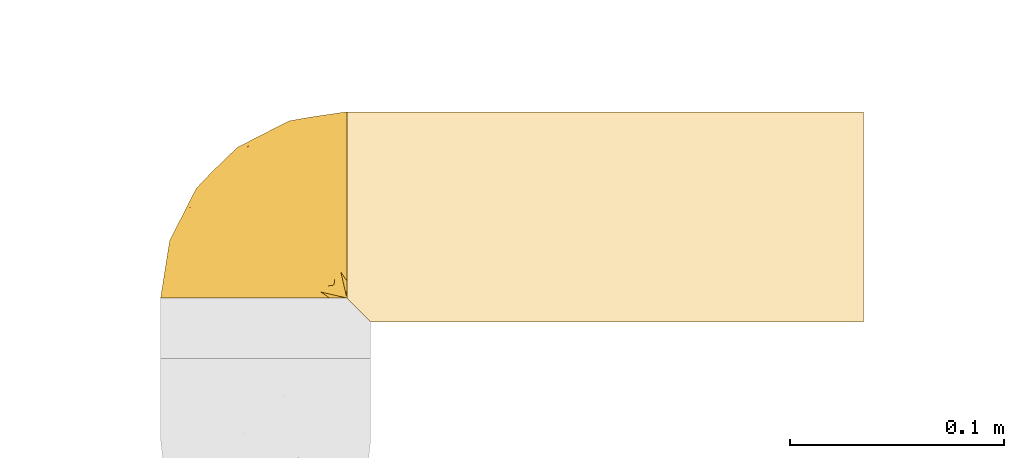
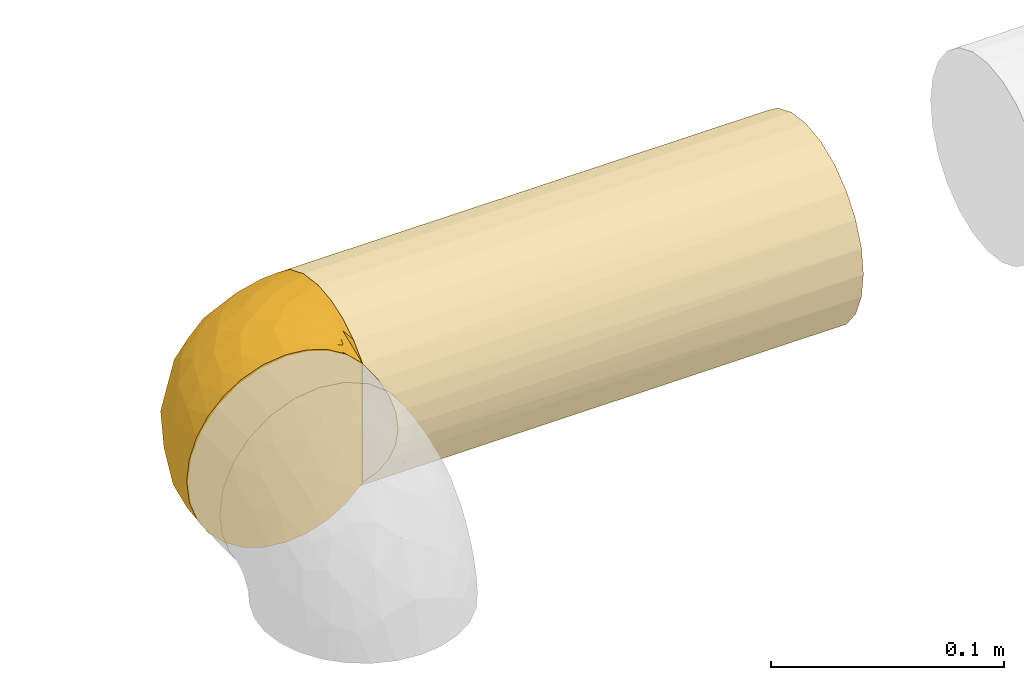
# One storey, part 3 of 6: 2 coverings.
"""IFC2X3 building model written with IfcOpenShell, lengths in millimetres."""

from ifc_helpers import new_model, entity, si_unit, converted_unit, derived_unit, direction, frame, origin, place, context, subcontext, project, spatial, faceted_brep, material, element, save


model = new_model("IFC2X3")

# Units and contexts
model_context = context("Model", 3, precision=0.01, world=origin(), true_north=direction((6.123031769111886e-17, 1.0)))
body_context = subcontext(model_context, "Body", "Model", "MODEL_VIEW")
ifc_project = project(units=[si_unit("LENGTHUNIT", "METRE", prefix="MILLI"), si_unit("AREAUNIT", "SQUARE_METRE"), si_unit("VOLUMEUNIT", "CUBIC_METRE"), converted_unit("PLANEANGLEUNIT", "DEGREE", entity("IfcRatioMeasure", 0.017453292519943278), si_unit("PLANEANGLEUNIT", "RADIAN"), dimensions=[0, 0, 0, 0, 0, 0, 0]), si_unit("MASSUNIT", "GRAM", prefix="KILO"), derived_unit("MASSDENSITYUNIT", [(si_unit("MASSUNIT", "GRAM", prefix="KILO"), 1), (si_unit("LENGTHUNIT", "METRE"), -3)]), derived_unit("IONCONCENTRATIONUNIT", [(si_unit("MASSUNIT", "GRAM", prefix="KILO"), 1), (si_unit("LENGTHUNIT", "METRE"), -3)]), derived_unit("MOMENTOFINERTIAUNIT", [(si_unit("LENGTHUNIT", "METRE"), 4)]), si_unit("TIMEUNIT", "SECOND"), si_unit("FREQUENCYUNIT", "HERTZ"), si_unit("THERMODYNAMICTEMPERATUREUNIT", "DEGREE_CELSIUS"), derived_unit("THERMALTRANSMITTANCEUNIT", [(si_unit("MASSUNIT", "GRAM", prefix="KILO"), 1), (si_unit("THERMODYNAMICTEMPERATUREUNIT", "KELVIN"), -1), (si_unit("TIMEUNIT", "SECOND"), -3)]), derived_unit("THERMALCONDUCTANCEUNIT", [(si_unit("MASSUNIT", "GRAM", prefix="KILO"), 1), (si_unit("THERMODYNAMICTEMPERATUREUNIT", "KELVIN"), -1), (si_unit("TIMEUNIT", "SECOND"), -3), (si_unit("LENGTHUNIT", "METRE"), 1)]), derived_unit("VOLUMETRICFLOWRATEUNIT", [(si_unit("LENGTHUNIT", "METRE"), 3), (si_unit("TIMEUNIT", "SECOND"), -1)]), derived_unit("MASSFLOWRATEUNIT", [(si_unit("MASSUNIT", "GRAM", prefix="KILO"), 1), (si_unit("TIMEUNIT", "SECOND"), -1)]), derived_unit("ROTATIONALFREQUENCYUNIT", [(si_unit("TIMEUNIT", "SECOND"), -1)]), si_unit("ELECTRICCURRENTUNIT", "AMPERE"), si_unit("ELECTRICVOLTAGEUNIT", "VOLT"), si_unit("POWERUNIT", "WATT"), si_unit("FORCEUNIT", "NEWTON", prefix="KILO"), si_unit("ILLUMINANCEUNIT", "LUX"), si_unit("LUMINOUSFLUXUNIT", "LUMEN"), si_unit("LUMINOUSINTENSITYUNIT", "CANDELA"), derived_unit("USERDEFINED", [(si_unit("MASSUNIT", "GRAM", prefix="KILO"), -1), (si_unit("LENGTHUNIT", "METRE"), -2), (si_unit("TIMEUNIT", "SECOND"), 3), (si_unit("LUMINOUSFLUXUNIT", "LUMEN"), 1)]), derived_unit("USERDEFINED", [(si_unit("MASSUNIT", "GRAM", prefix="KILO"), 1), (si_unit("TIMEUNIT", "SECOND"), -3), (si_unit("LENGTHUNIT", "METRE"), 3), (si_unit("ELECTRICCURRENTUNIT", "AMPERE"), -2)]), derived_unit("SOUNDPOWERUNIT", [(si_unit("MASSUNIT", "GRAM", prefix="KILO"), 1), (si_unit("TIMEUNIT", "SECOND"), -3), (si_unit("LENGTHUNIT", "METRE"), 2)]), derived_unit("SOUNDPRESSUREUNIT", [(si_unit("MASSUNIT", "GRAM", prefix="KILO"), 1), (si_unit("LENGTHUNIT", "METRE"), -1), (si_unit("TIMEUNIT", "SECOND"), -2)]), derived_unit("LINEARVELOCITYUNIT", [(si_unit("LENGTHUNIT", "METRE"), 1), (si_unit("TIMEUNIT", "SECOND"), -1)]), si_unit("PRESSUREUNIT", "PASCAL"), derived_unit("USERDEFINED", [(si_unit("MASSUNIT", "GRAM", prefix="KILO"), 1), (si_unit("LENGTHUNIT", "METRE"), -2), (si_unit("TIMEUNIT", "SECOND"), -2)]), derived_unit("LINEARFORCEUNIT", [(si_unit("MASSUNIT", "GRAM", prefix="KILO"), 1), (si_unit("TIMEUNIT", "SECOND"), -2)]), derived_unit("PLANARFORCEUNIT", [(si_unit("MASSUNIT", "GRAM", prefix="KILO"), 1), (si_unit("LENGTHUNIT", "METRE"), -1), (si_unit("TIMEUNIT", "SECOND"), -2)]), derived_unit("SPECIFICHEATCAPACITYUNIT", [(si_unit("THERMODYNAMICTEMPERATUREUNIT", "KELVIN"), -1), (si_unit("LENGTHUNIT", "METRE"), 2), (si_unit("TIMEUNIT", "SECOND"), -2)]), derived_unit("HEATINGVALUEUNIT", [(si_unit("LENGTHUNIT", "METRE"), 2), (si_unit("TIMEUNIT", "SECOND"), -2)]), derived_unit("VAPORPERMEABILITYUNIT", [(si_unit("LENGTHUNIT", "METRE"), -1), (si_unit("TIMEUNIT", "SECOND"), 1)]), derived_unit("DYNAMICVISCOSITYUNIT", [(si_unit("MASSUNIT", "GRAM", prefix="KILO"), 1), (si_unit("TIMEUNIT", "SECOND"), -1), (si_unit("LENGTHUNIT", "METRE"), -1)]), derived_unit("THERMALEXPANSIONCOEFFICIENTUNIT", [(si_unit("THERMODYNAMICTEMPERATUREUNIT", "KELVIN"), -1)]), derived_unit("MODULUSOFELASTICITYUNIT", [(si_unit("MASSUNIT", "GRAM", prefix="KILO"), 1), (si_unit("LENGTHUNIT", "METRE"), -1), (si_unit("TIMEUNIT", "SECOND"), -2)]), derived_unit("ISOTHERMALMOISTURECAPACITYUNIT", [(si_unit("LENGTHUNIT", "METRE"), 3), (si_unit("MASSUNIT", "GRAM", prefix="KILO"), -1)]), derived_unit("MOISTUREDIFFUSIVITYUNIT", [(si_unit("TIMEUNIT", "SECOND"), -1), (si_unit("LENGTHUNIT", "METRE"), 2)])], contexts=[model_context])

# Site, building, storey
site_placement = place(None, origin())
site = spatial("IfcSite", under=ifc_project, at=site_placement, Name="Default", CompositionType="ELEMENT")
building_placement = place(site_placement, origin())
building = spatial("IfcBuilding", under=site, at=building_placement, CompositionType="ELEMENT")
storey_placement = place(building_placement, frame((0.0, 0.0, 3000.0)))
storey = spatial("IfcBuildingStorey", under=building, at=storey_placement, Name="Niveau 1", CompositionType="ELEMENT", Elevation=3000.0)

# Coverings
ifc_material = material(Name="Isolation - Laine minérale")
covering_1_placement = place(storey_placement, frame((-10422.891137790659, 9987.250352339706, 0.7452722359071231)))
element("IfcCovering", 1, at=covering_1_placement, inside=storey, material=ifc_material, Name="Isolation des canalisations:Laine minérale", ObjectType="Isolation des canalisations:Laine minérale", PredefinedType="INSULATION", context=body_context, shape_type="Brep", body=[
    faceted_brep([(29.412134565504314, 1.5952722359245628, -6.466386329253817), (20.093252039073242, 1.5952722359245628, -12.324234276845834), (12.312548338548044, 1.5952722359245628, -20.107905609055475), (6.459227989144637, 1.5952722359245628, -29.426998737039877), (2.826140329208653, 1.5952722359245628, -39.814613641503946), (1.5952722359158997, 1.5952722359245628, -50.7452722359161), (2.8288129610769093, 1.5952722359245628, -61.68764083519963), (6.466386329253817, 1.5952722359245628, -72.07840990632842), (12.324234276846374, 1.5952722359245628, -81.39729243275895), (20.107905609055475, 1.5952722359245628, -89.17799613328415), (29.42699873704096, 1.5952722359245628, -95.03131648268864), (39.81461364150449, 1.5952722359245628, -98.664404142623), (50.74527223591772, 1.5952722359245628, -99.8952722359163), (61.40435822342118, 1.5952722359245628, -98.72554303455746), (71.55257335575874, 1.5952722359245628, -95.27367575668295), (80.70896636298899, 1.5952722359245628, -89.70550239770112), (88.43165280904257, 1.5952722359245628, -82.2961711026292), (88.43165280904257, 1.5952722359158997, -79.85190220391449), (88.43165280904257, 1.5952722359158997, -78.07484973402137), (88.43165280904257, 1.5952722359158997, -76.2977972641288), (88.43165280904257, 1.5952722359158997, -74.79820380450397), (88.43165280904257, 1.5952722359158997, -73.2986103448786), (88.43165280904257, 1.5952722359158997, -70.29942342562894), (88.43165280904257, 1.5952722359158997, -67.30023650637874), (88.43165280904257, 1.5952722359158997, -64.30104958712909), (88.43165280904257, 1.5952722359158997, -61.301862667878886), (88.43165280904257, 1.5952722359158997, -59.80226920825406), (88.43165280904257, 1.5952722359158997, -58.30267574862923), (88.43165280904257, 1.5952722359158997, -55.858406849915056), (88.43165280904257, 1.5952722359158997, -53.41413795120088), (88.43165280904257, 1.5952722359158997, -50.96986905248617), (88.43165280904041, 1.5952722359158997, -48.52560015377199), (88.43165280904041, 1.5952722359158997, -46.08133125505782), (88.43165280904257, 1.5952722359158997, -43.63706235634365), (88.43165280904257, 1.5952722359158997, -41.19279345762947), (88.43165280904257, 1.5952722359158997, -38.74852455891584), (88.43165280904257, 1.5952722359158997, -36.30425566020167), (88.43165280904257, 1.5952722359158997, -33.85998676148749), (88.43165280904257, 1.5952722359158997, -31.41571786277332), (88.43165280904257, 1.5952722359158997, -28.971448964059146), (88.43165280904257, 1.5952722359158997, -26.52718006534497), (88.43165280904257, 1.5952722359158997, -24.082911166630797), (88.43165280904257, 1.5952722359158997, -21.638642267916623), (88.43165280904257, 1.5952722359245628, -19.194373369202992), (80.69235262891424, 1.5952722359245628, -11.772270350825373), (71.53113811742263, 1.5952722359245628, -6.2068587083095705), (61.3839004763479, 1.5952722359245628, -2.760461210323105), (50.74527223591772, 1.5952722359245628, -1.5952722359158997), (39.802903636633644, 1.5952722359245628, -2.828812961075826), (88.74527223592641, 1.908891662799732, -82.29617110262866), (88.74527223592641, 9.641963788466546, -89.71348765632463), (88.74527223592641, 18.798688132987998, -95.27868204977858), (88.74527223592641, 28.94385431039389, -98.7272458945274), (88.74527223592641, 39.59527223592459, -99.89527223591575), (88.74527223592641, 52.31622830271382, -98.22052659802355), (88.74527223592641, 64.1702722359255, -93.31042083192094), (88.74527223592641, 74.34957053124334, -85.49957053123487), (88.74527223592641, 82.16042083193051, -75.32027223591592), (88.74527223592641, 87.07052659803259, -63.46622830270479), (88.74527223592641, 88.74527223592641, -50.7452722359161), (88.74527223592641, 87.07052659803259, -38.02431616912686), (88.74527223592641, 82.16042083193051, -26.17027223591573), (88.74527223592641, 74.34957053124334, -15.990973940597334), (88.74527223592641, 64.1702722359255, -8.180123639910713), (88.74527223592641, 52.31622830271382, -3.2700178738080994), (88.74527223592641, 39.59527223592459, -1.5952722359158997), (88.74527223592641, 28.94385431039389, -2.7632985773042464), (88.74527223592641, 18.798688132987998, -6.211862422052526), (88.74527223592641, 9.641963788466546, -11.777056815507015), (88.74527223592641, 1.908891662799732, -19.19437336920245), (88.74527223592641, 1.908891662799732, -21.63864226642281), (88.74527223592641, 1.908891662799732, -23.138235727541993), (88.74527223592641, 1.908891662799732, -25.110166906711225), (88.74527223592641, 1.908891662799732, -27.082098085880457), (88.74527223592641, 1.908891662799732, -29.05402926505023), (88.74527223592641, 1.908891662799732, -31.02596044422), (88.74527223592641, 1.908891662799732, -32.99789162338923), (88.74527223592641, 1.908891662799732, -34.969822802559), (88.74527223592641, 1.908891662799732, -36.94175398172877), (88.74527223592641, 1.908891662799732, -38.913685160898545), (88.74527223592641, 1.908891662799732, -40.88561634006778), (88.74527223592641, 1.908891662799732, -42.85754751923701), (88.74527223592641, 1.908891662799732, -44.82947869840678), (88.74527223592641, 1.908891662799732, -46.80140987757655), (88.74527223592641, 1.908891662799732, -48.773341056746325), (88.74527223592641, 1.908891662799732, -50.74527223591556), (88.74527223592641, 1.9088916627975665, -52.71720341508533), (88.74527223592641, 1.908891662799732, -54.689134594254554), (88.74527223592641, 1.9088916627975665, -56.661065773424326), (88.74527223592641, 1.908891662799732, -58.632996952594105), (88.74527223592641, 1.908891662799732, -60.60492813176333), (88.74527223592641, 1.908891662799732, -62.5768593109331), (88.74527223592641, 1.908891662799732, -64.54879049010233), (88.74527223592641, 1.908891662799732, -66.5207216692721), (88.74527223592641, 1.908891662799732, -69.51990859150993), (88.74527223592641, 1.908891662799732, -72.51909551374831), (88.74527223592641, 1.908891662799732, -74.96336441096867), (88.74527223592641, 1.908891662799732, -77.40763330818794), (88.74527223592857, 1.908891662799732, -79.85190220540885), (88.53090125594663, 1.8241875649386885, -47.73720476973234), (88.52210831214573, 1.8156242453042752, -49.65777912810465), (88.52122178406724, 1.8147227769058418, -40.01764283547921), (88.52777998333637, 1.8212241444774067, -37.92771907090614), (88.54092532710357, 1.8331787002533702, -53.48951745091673), (88.53506454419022, 1.828016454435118, -24.240550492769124), (88.49130573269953, 1.7792781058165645, -20.791406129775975), (88.51810292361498, 1.8114926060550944, -59.05247302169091), (88.52350981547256, 1.817034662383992, -78.62976787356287), (88.52548149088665, 1.81898896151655, -76.79032803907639), (88.51653277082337, 1.8098308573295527, -30.120454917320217), (88.52674320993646, 1.820221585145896, -28.08670561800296), (88.50469006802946, 1.7964621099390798, -57.08054182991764), (88.52964682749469, 1.8230063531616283, -63.562825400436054), (88.53317608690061, 1.826296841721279, -61.67745907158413), (88.51585328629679, 1.8091041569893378, -65.53475654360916), (88.52914218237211, 1.8225274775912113, -51.73123795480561), (88.52591800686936, 1.8194169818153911, -80.4629694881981), (88.53664906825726, 1.8294378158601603, -45.815443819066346), (88.53747885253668, 1.8301744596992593, -33.98385679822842), (88.53273195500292, 1.825888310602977, -35.87599747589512), (88.53426299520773, 1.8272900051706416, -67.38596354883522), (88.53370000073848, 1.8267767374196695, -43.93836928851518), (88.52350981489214, 1.817034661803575, -22.3884388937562), (88.53493173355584, 1.8278964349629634, -26.096132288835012), (88.52350981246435, 1.8170346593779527, -19.19437336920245), (88.4948797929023, 1.747915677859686, -19.194373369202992), (88.46624977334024, 1.6787966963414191, -19.194373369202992), (88.52350981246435, 1.8170346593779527, -82.29617110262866), (88.59262879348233, 1.8456646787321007, -82.2961711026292), (88.66174777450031, 1.8742946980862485, -82.2961711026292), (88.5100064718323, 1.8026539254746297, -69.27838714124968), (88.53042484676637, 1.8237404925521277, -32.054952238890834), (88.52246762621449, 1.8159875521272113, -55.242256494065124), (88.52470424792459, 1.8182226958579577, -41.99993111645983), (88.50579329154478, 1.7977740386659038, -72.07129245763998), (88.5274414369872, 1.8208977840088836, -74.04840730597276), (88.66174777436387, 1.8742946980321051, -19.194373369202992), (88.59262879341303, 1.8456646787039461, -19.194373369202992), (88.46624977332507, 1.678796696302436, -82.2961711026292), (88.4948797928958, 1.7479156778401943, -82.2961711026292), (85.22080157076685, 23.495219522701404, -97.28026065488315), (85.93611072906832, 13.747756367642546, -92.74636463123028), (81.07807843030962, 22.409779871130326, -97.28026068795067), (83.13289242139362, 10.562522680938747, -91.53496062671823), (79.24527223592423, 37.049754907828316, -99.8952722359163), (81.28890223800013, 37.59734391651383, -99.8952722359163), (55.83630689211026, 20.595272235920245, -99.8952722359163), (66.39553001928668, 16.02014974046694, -98.55504664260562), (67.9404040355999, 9.26167767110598, -97.27709237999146), (69.74527223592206, 34.50423757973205, -99.8952722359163), (80.67378389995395, 9.667897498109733, -92.08523869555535), (79.78892094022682, 7.2029124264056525, -91.52705697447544), (74.32109358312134, 23.944746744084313, -98.554902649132), (66.85470593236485, 5.119390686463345, -97.27709230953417), (76.60336361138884, 4.4028932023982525, -92.73988957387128), (79.64911936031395, 17.541506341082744, -95.7999166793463), (52.743200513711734, 9.05164207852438, -99.8952722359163), (53.29078956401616, 11.095272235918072, -99.89527223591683), (73.61168493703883, 16.728859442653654, -97.0079248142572), (62.790789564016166, 27.549754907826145, -99.8952722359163), (73.87988529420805, 12.071559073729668, -95.72448717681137), (75.32913676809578, 47.623950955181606, -98.87881941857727), (65.9107418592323, 44.00144112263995, -98.83301276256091), (53.84761415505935, 58.899698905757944, -90.35896612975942), (59.13651173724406, 72.66771487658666, -80.6658965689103), (71.16612245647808, 67.20155656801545, -89.73858973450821), (67.0054527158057, 54.07984229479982, -96.15395204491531), (78.8805128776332, 57.54110754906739, -96.15395161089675), (37.51978749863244, 72.10110329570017, -50.7452722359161), (61.81444117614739, 84.47984763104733, -50.7452722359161), (53.875201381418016, 80.24801351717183, -61.15080493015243), (25.784943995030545, 13.851436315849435, -92.3663011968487), (36.24418276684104, 15.165285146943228, -97.13949915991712), (29.562882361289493, 60.77765845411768, -68.84359020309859), (30.77068194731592, 55.38583609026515, -77.72163513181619), (15.292222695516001, 43.89737524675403, -65.87522637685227), (71.31385843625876, 86.12648113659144, -59.79441061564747), (47.24102741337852, 73.23168363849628, -70.98072673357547), (43.50389303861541, 64.74738573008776, -79.7421140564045), (75.28985257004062, 77.40373146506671, -80.66589650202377), (67.10273039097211, 82.14716981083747, -69.55416171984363), (37.09920094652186, 52.829115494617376, -85.50619835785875), (44.51517687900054, 48.878965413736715, -91.98084112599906), (33.70477633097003, 40.607220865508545, -90.08477530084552), (44.05169469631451, 28.769953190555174, -97.76701228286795), (30.044081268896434, 27.448445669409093, -92.36630165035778), (18.312338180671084, 19.800365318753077, -85.5061967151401), (5.8606968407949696, 28.52610329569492, -50.7452722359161), (7.04140620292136, 22.71562192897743, -66.98519337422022), (25.61446965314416, 42.31748570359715, -82.95460966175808), (15.886915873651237, 33.68382770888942, -76.90235033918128), (10.600409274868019, 16.806973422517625, -76.90235057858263), (38.50378416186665, 71.07858054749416, -62.41468564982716), (25.345180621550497, 60.332491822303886, -59.14435954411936), (53.163504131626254, 33.37332146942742, -98.92729244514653), (18.239441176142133, 52.82075697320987, -50.7452722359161), (52.69469876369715, 43.46542968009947, -96.76809515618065), (58.17589226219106, 79.20017463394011, -31.93638344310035), (71.70091272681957, 86.24488809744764, -41.905436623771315), (54.57433327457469, 80.83807017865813, -41.62511866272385), (42.49805076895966, 72.52816019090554, -35.352647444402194), (75.06235489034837, 83.87397883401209, -31.936382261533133), (24.5251412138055, 35.798660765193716, -15.997222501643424), (25.786342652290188, 48.02046276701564, -22.50195470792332), (15.878231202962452, 33.68736739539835, -24.603113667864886), (37.08979212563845, 52.83844921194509, -15.997599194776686), (35.71336208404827, 59.75598123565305, -23.203879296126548), (36.23150879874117, 15.17001623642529, -4.355753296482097), (70.53804152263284, 45.55141709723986, -2.5375085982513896), (69.74527223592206, 34.50423757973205, -1.5952722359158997), (79.24527223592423, 37.049754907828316, -1.5952722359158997), (7.0362994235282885, 22.71467774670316, -34.51880576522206), (69.24086116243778, 76.07714087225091, -20.82464795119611), (30.03051209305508, 27.454651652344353, -9.133617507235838), (25.770245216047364, 13.854008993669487, -9.133617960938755), (76.87540408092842, 68.47065883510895, -11.751955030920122), (74.00473445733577, 56.45843349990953, -5.336592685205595), (48.41047025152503, 68.0885450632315, -21.865705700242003), (62.62553049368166, 64.29272071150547, -11.751954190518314), (31.220776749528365, 66.01125638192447, -41.9823852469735), (29.560345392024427, 60.78019542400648, -32.65601578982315), (79.82666983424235, 48.01911236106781, -2.477909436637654), (10.591274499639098, 16.809109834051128, -24.603113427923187), (15.28724730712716, 43.900853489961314, -35.63402191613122), (18.299506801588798, 19.803681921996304, -15.997600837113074), (44.04987097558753, 28.78672684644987, -3.726659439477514), (55.83630689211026, 20.595272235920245, -1.5952722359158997), (54.23536248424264, 35.48506655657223, -2.7012349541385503), (62.790789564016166, 27.549754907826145, -1.5952722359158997), (52.743200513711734, 9.051642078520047, -1.5952722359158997), (53.29078956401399, 11.095272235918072, -1.5952722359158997), (48.41211537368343, 53.16291239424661, -9.986684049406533), (64.14304703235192, 52.0530845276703, -5.0637132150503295), (40.10640265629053, 41.40103739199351, -8.340625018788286), (62.89073418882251, 40.721221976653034, -2.407172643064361), (47.672778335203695, 60.91677547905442, -15.399468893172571), (55.38955823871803, 45.94061161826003, -4.812375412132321), (81.07807840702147, 22.409778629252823, -4.210284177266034), (78.26566497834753, 16.464254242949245, -5.763920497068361), (74.3207291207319, 23.943292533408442, -2.935886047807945), (85.22080145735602, 23.49521891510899, -4.210284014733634), (85.93611080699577, 13.747755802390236, -8.744180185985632), (83.13257230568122, 10.564867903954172, -9.954133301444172), (82.68198005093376, 7.656624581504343, -11.377788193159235), (73.61706381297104, 16.72348133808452, -4.485349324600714), (79.75777141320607, 7.216517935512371, -9.940890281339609), (67.9184535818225, 9.263185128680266, -4.2062740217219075), (66.83334757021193, 5.119593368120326, -4.206273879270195), (76.5844900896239, 4.4058785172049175, -8.739069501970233), (66.39770760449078, 16.01862728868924, -2.9361309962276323), (72.7838259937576, 10.692146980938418, -5.684713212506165)], [[[0, 1, 2, 3, 4, 5, 6, 7, 8, 9, 10, 11, 12, 13, 14, 15, 16, 17, 18, 19, 20, 21, 22, 23, 24, 25, 26, 27, 28, 29, 30, 31, 32, 33, 34, 35, 36, 37, 38, 39, 40, 41, 42, 43, 44, 45, 46, 47, 48]], [[49, 50, 51, 52, 53, 54, 55, 56, 57, 58, 59, 60, 61, 62, 63, 64, 65, 66, 67, 68, 69, 70, 71, 72, 73, 74, 75, 76, 77, 78, 79, 80, 81, 82, 83, 84, 85, 86, 87, 88, 89, 90, 91, 92, 93, 94, 95, 96, 97, 98]], [[99, 100, 84]], [[101, 102, 35]], [[86, 103, 87]], [[72, 71, 104]], [[105, 70, 69]], [[27, 26, 106]], [[18, 107, 108]], [[109, 74, 110]], [[28, 27, 111]], [[25, 112, 113]], [[108, 97, 96]], [[114, 93, 92]], [[103, 86, 115]], [[97, 107, 98]], [[107, 17, 116]], [[79, 102, 101]], [[99, 117, 32]], [[77, 118, 119]], [[120, 93, 114]], [[112, 91, 113]], [[89, 111, 106]], [[40, 39, 110]], [[107, 97, 108]], [[32, 117, 121]], [[92, 91, 112]], [[37, 119, 118]], [[85, 115, 86]], [[70, 105, 122]], [[72, 123, 73]], [[105, 124, 125, 126, 43]], [[116, 17, 16]], [[122, 71, 70]], [[41, 122, 42]], [[18, 17, 107]], [[116, 127, 128, 129, 49]], [[110, 123, 40]], [[42, 122, 105]], [[120, 23, 130]], [[24, 114, 112]], [[114, 24, 23]], [[104, 123, 72]], [[92, 112, 114]], [[104, 122, 41]], [[24, 112, 25]], [[110, 73, 123]], [[36, 119, 37]], [[40, 123, 41]], [[75, 74, 109]], [[131, 76, 75]], [[118, 131, 37]], [[109, 110, 39]], [[109, 39, 38]], [[74, 73, 110]], [[123, 104, 41]], [[122, 104, 71]], [[26, 25, 113]], [[113, 90, 106]], [[88, 87, 132]], [[113, 106, 26]], [[77, 76, 118]], [[132, 111, 88]], [[106, 111, 27]], [[132, 28, 111]], [[88, 111, 89]], [[89, 106, 90]], [[113, 91, 90]], [[131, 118, 76]], [[38, 37, 131]], [[119, 36, 102]], [[131, 109, 38]], [[109, 131, 75]], [[79, 78, 102]], [[78, 119, 102]], [[78, 77, 119]], [[121, 81, 133]], [[36, 35, 102]], [[33, 121, 133]], [[80, 79, 101]], [[34, 101, 35]], [[132, 29, 28]], [[81, 80, 133]], [[29, 103, 115]], [[30, 29, 115]], [[87, 103, 132]], [[100, 115, 85]], [[31, 30, 100]], [[115, 100, 30]], [[32, 31, 99]], [[117, 82, 121]], [[100, 85, 84]], [[99, 83, 117]], [[82, 117, 83]], [[33, 32, 121]], [[83, 99, 84]], [[100, 99, 31]], [[34, 33, 133]], [[121, 82, 81]], [[133, 101, 34]], [[101, 133, 80]], [[134, 95, 94]], [[23, 120, 114]], [[132, 103, 29]], [[120, 94, 93]], [[94, 120, 130]], [[98, 107, 116]], [[108, 20, 19, 18]], [[21, 135, 134]], [[20, 135, 21]], [[134, 135, 95]], [[108, 96, 135]], [[108, 135, 20]], [[135, 96, 95]], [[134, 22, 21]], [[130, 22, 134]], [[42, 105, 43]], [[105, 69, 136, 137, 124]], [[98, 116, 49]], [[116, 16, 138, 139, 127]], [[94, 130, 134]], [[22, 130, 23]], [[140, 141, 142]], [[143, 129, 128, 127]], [[52, 144, 145, 53]], [[146, 147, 148]], [[142, 149, 144]], [[150, 127, 151]], [[51, 140, 52]], [[142, 152, 149]], [[52, 140, 144]], [[129, 143, 141]], [[14, 13, 153]], [[148, 151, 154]], [[155, 141, 143]], [[151, 138, 154]], [[14, 153, 154]], [[16, 15, 138]], [[13, 12, 156, 157]], [[152, 155, 158]], [[159, 158, 147]], [[157, 148, 153]], [[14, 154, 15]], [[50, 49, 129]], [[50, 129, 141]], [[141, 51, 50]], [[160, 148, 147]], [[146, 148, 157]], [[138, 15, 154]], [[150, 158, 155]], [[151, 127, 139, 138]], [[141, 140, 51]], [[144, 140, 142]], [[157, 153, 13]], [[154, 153, 148]], [[149, 152, 159]], [[160, 147, 158]], [[147, 146, 159]], [[155, 152, 142]], [[159, 152, 158]], [[127, 150, 143]], [[160, 150, 151]], [[150, 160, 158]], [[148, 160, 151]], [[141, 155, 142]], [[155, 143, 150]], [[156, 12, 11]], [[161, 149, 162]], [[163, 164, 165]], [[166, 167, 161]], [[168, 169, 170]], [[55, 165, 56]], [[171, 172, 10]], [[173, 174, 175]], [[58, 176, 59]], [[173, 177, 178]], [[179, 57, 56]], [[55, 167, 165]], [[170, 180, 177]], [[57, 179, 180]], [[167, 55, 54]], [[181, 182, 183]], [[184, 146, 172]], [[172, 185, 184]], [[186, 185, 171]], [[186, 9, 8]], [[172, 146, 157, 156]], [[172, 11, 10]], [[173, 178, 174]], [[6, 187, 188]], [[189, 186, 190]], [[191, 186, 8]], [[175, 190, 188]], [[168, 192, 193]], [[189, 190, 174]], [[57, 180, 58]], [[8, 7, 191]], [[188, 7, 6]], [[6, 5, 187]], [[190, 191, 188]], [[159, 194, 162]], [[175, 187, 195]], [[177, 180, 164]], [[10, 9, 171]], [[176, 180, 170]], [[156, 11, 172]], [[163, 165, 166]], [[179, 165, 164]], [[54, 53, 145]], [[185, 189, 183]], [[184, 196, 194]], [[188, 191, 7]], [[186, 191, 190]], [[186, 171, 9]], [[172, 171, 185]], [[187, 175, 188]], [[193, 175, 195]], [[196, 163, 166]], [[163, 181, 178]], [[162, 166, 161]], [[184, 185, 183]], [[178, 177, 164]], [[177, 192, 170]], [[177, 173, 192]], [[176, 170, 169]], [[59, 176, 169]], [[58, 180, 176]], [[193, 192, 173]], [[168, 170, 192]], [[175, 193, 173]], [[168, 193, 195]], [[163, 178, 164]], [[184, 194, 146]], [[178, 181, 174]], [[189, 174, 181]], [[175, 174, 190]], [[183, 189, 181]], [[186, 189, 185]], [[182, 181, 163]], [[183, 182, 184]], [[163, 196, 182]], [[184, 182, 196]], [[165, 179, 56]], [[180, 179, 164]], [[161, 54, 145]], [[165, 167, 166]], [[54, 161, 167]], [[161, 145, 144, 149]], [[159, 162, 149]], [[196, 166, 162]], [[162, 194, 196]], [[146, 194, 159]], [[197, 198, 199]], [[59, 169, 198]], [[197, 199, 200]], [[198, 197, 201]], [[202, 203, 204]], [[61, 60, 201]], [[205, 206, 203]], [[0, 48, 207]], [[208, 209, 210]], [[187, 4, 211]], [[201, 212, 61]], [[213, 214, 207]], [[62, 215, 63]], [[63, 215, 216]], [[3, 211, 4]], [[217, 218, 212]], [[219, 220, 200]], [[216, 208, 221]], [[3, 2, 222]], [[63, 216, 64]], [[62, 61, 212]], [[211, 3, 222]], [[5, 4, 187]], [[217, 197, 200]], [[203, 223, 204]], [[2, 1, 224]], [[225, 213, 207]], [[204, 222, 224]], [[1, 0, 214]], [[204, 224, 202]], [[207, 226, 225]], [[227, 226, 228]], [[223, 211, 204]], [[214, 224, 1]], [[202, 224, 213]], [[48, 47, 229]], [[207, 229, 230, 226]], [[211, 223, 187]], [[218, 231, 232]], [[48, 229, 207]], [[205, 233, 231]], [[233, 213, 225]], [[217, 212, 197]], [[215, 212, 218]], [[228, 234, 227]], [[233, 205, 202]], [[208, 234, 209]], [[64, 221, 65]], [[235, 205, 231]], [[207, 214, 0]], [[224, 214, 213]], [[224, 222, 2]], [[211, 222, 204]], [[219, 223, 220]], [[187, 223, 195]], [[227, 233, 225]], [[234, 228, 209]], [[231, 233, 236]], [[221, 208, 210]], [[232, 208, 216]], [[65, 221, 210]], [[216, 221, 64]], [[233, 202, 213]], [[203, 202, 205]], [[205, 235, 206]], [[223, 203, 220]], [[200, 206, 217]], [[220, 203, 206]], [[232, 231, 236]], [[235, 218, 217]], [[212, 215, 62]], [[216, 215, 218]], [[218, 232, 216]], [[234, 232, 236]], [[232, 234, 208]], [[234, 236, 227]], [[233, 227, 236]], [[226, 227, 225]], [[198, 201, 60]], [[212, 201, 197]], [[59, 198, 60]], [[198, 169, 199]], [[169, 168, 199]], [[219, 200, 199]], [[219, 199, 168]], [[200, 220, 206]], [[168, 195, 219]], [[223, 219, 195]], [[218, 235, 231]], [[206, 235, 217]], [[66, 65, 210]], [[209, 237, 210]], [[238, 237, 239]], [[67, 240, 241]], [[242, 136, 241]], [[243, 137, 242]], [[243, 244, 245]], [[66, 240, 67]], [[136, 69, 68]], [[136, 68, 241]], [[246, 226, 230]], [[67, 241, 68]], [[210, 237, 240]], [[45, 247, 46]], [[209, 239, 237]], [[246, 247, 248]], [[46, 247, 230]], [[249, 250, 244]], [[239, 228, 244]], [[226, 246, 249]], [[250, 248, 245]], [[44, 43, 126]], [[237, 242, 241]], [[248, 45, 44]], [[44, 126, 248]], [[46, 230, 229, 47]], [[245, 126, 125]], [[126, 245, 248]], [[243, 124, 137]], [[210, 240, 66]], [[241, 240, 237]], [[248, 247, 45]], [[230, 247, 246]], [[226, 249, 228]], [[238, 239, 244]], [[239, 209, 228]], [[250, 249, 246]], [[228, 249, 244]], [[243, 242, 238]], [[136, 242, 137]], [[124, 243, 125]], [[125, 243, 245]], [[243, 238, 244]], [[237, 238, 242]], [[248, 250, 246]], [[244, 250, 245]]]),
])
covering_2_placement = place(storey_placement, frame((-10335.741137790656, 9976.120352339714, 0.7252722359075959)))
element("IfcCovering", 2, at=covering_2_placement, inside=storey, material=ifc_material, Name="Isolation des canalisations:Laine minérale", ObjectType="Isolation des canalisations:Laine minérale", PredefinedType="INSULATION", context=body_context, shape_type="Brep", body=[
    faceted_brep([(1.5952722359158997, 29.696487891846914, -95.12737949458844), (1.5952722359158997, 20.47495615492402, -89.43799982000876), (1.5952722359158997, 12.72527223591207, -81.86619226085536), (1.5952722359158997, 12.725272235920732, -19.584352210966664), (1.5952722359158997, 20.474956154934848, -12.012544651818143), (1.5952722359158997, 29.696487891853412, -6.323164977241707), (1.5952722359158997, 39.940498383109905, -2.793596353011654), (1.5952722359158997, 50.72527223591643, -1.5952722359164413), (1.5952722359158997, 63.44105192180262, -3.269336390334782), (1.5952722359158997, 75.29027223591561, -8.17744414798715), (1.5952722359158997, 85.46542839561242, -15.985116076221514), (1.5952722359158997, 93.2731003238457, -26.160272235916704), (1.5952722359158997, 98.18120808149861, -38.00949255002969), (1.5952722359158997, 99.85527223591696, -50.72527223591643), (1.5952722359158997, 98.18120808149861, -63.44105192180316), (1.5952722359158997, 93.2731003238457, -75.29027223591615), (1.5952722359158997, 85.46542839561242, -85.46542839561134), (1.5952722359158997, 75.29027223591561, -93.2731003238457), (1.5952722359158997, 63.44105192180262, -98.18120808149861), (1.5952722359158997, 50.72527223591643, -99.85527223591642), (1.5952722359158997, 39.94049838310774, -98.65694811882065), (243.24885279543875, 8.17744414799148, -75.29027223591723), (243.24885279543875, 15.985116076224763, -85.46542839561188), (243.24885279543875, 26.16027223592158, -93.27310032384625), (243.24885279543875, 38.009492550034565, -98.18120808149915), (243.24885279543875, 50.725272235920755, -99.85527223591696), (243.24885279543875, 63.441051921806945, -98.18120808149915), (243.24885279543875, 75.29027223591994, -93.27310032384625), (243.24885279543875, 85.46542839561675, -85.46542839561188), (243.24885279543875, 93.27310032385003, -75.29027223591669), (243.24885279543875, 98.18120808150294, -63.4410519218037), (243.24885279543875, 99.85527223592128, -50.72527223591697), (243.24885279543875, 98.18120808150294, -38.00949255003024), (243.24885279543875, 93.27310032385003, -26.160272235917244), (243.24885279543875, 85.46542839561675, -15.985116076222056), (243.24885279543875, 75.29027223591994, -8.177444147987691), (243.24885279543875, 63.441051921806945, -3.269336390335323), (243.24885279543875, 50.725272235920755, -1.5952722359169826), (243.24885279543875, 38.009492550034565, -3.269336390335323), (243.24885279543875, 26.16027223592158, -8.177444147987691), (243.24885279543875, 15.985116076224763, -15.985116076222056), (243.24885279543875, 8.17744414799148, -26.160272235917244), (243.24885279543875, 3.2693363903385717, -38.00949255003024), (243.24885279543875, 1.5952722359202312, -50.72527223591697), (243.24885279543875, 3.2693363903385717, -63.4410519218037), (9.859172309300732, 4.461372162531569, -67.26033951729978), (12.003444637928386, 2.3170998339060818, -59.11608534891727), (12.725272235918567, 1.5952722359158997, -50.72527223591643), (6.355463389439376, 7.965081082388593, -74.91872078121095), (12.003444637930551, 2.3170998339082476, -42.334459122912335), (9.859172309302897, 4.461372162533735, -34.190204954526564), (6.355463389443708, 7.965081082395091, -26.531823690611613)], [[[0, 1, 2, 3, 4, 5, 6, 7, 8, 9, 10, 11, 12, 13, 14, 15, 16, 17, 18, 19, 20]], [[21, 22, 23, 24, 25, 26, 27, 28, 29, 30, 31, 32, 33, 34, 35, 36, 37, 38, 39, 40, 41, 42, 43, 44]], [[30, 29, 15, 14]], [[31, 30, 14, 13]], [[29, 28, 16, 15]], [[18, 17, 27, 26]], [[19, 18, 26, 25]], [[28, 27, 17, 16]], [[20, 25, 24]], [[0, 24, 23]], [[1, 23, 22]], [[19, 25, 20]], [[20, 24, 0]], [[23, 1, 0]], [[22, 2, 1]], [[45, 21, 44]], [[44, 43, 46]], [[47, 46, 43]], [[48, 2, 21]], [[46, 45, 44]], [[48, 21, 45]], [[21, 2, 22]], [[49, 47, 43]], [[49, 43, 42]], [[50, 42, 41]], [[50, 49, 42]], [[3, 51, 41]], [[50, 41, 51]], [[41, 40, 3]], [[4, 40, 39]], [[5, 39, 38]], [[6, 38, 37]], [[4, 39, 5]], [[5, 38, 6]], [[37, 7, 6]], [[40, 4, 3]], [[8, 7, 37, 36]], [[9, 8, 36, 35]], [[35, 34, 10, 9]], [[12, 11, 33, 32]], [[13, 12, 32, 31]], [[34, 33, 11, 10]], [[2, 48, 45, 46, 47, 49, 50, 51, 3]]]),
])

save(model, "model.ifc")
